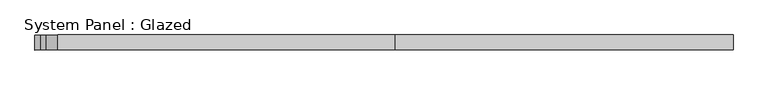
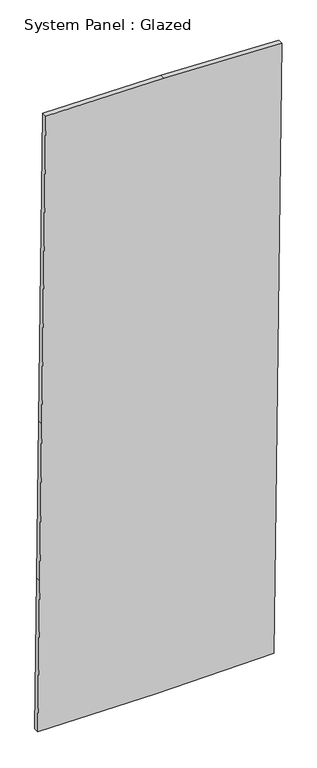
"""IFC4 building model written with IfcOpenShell, lengths in millimetres: plate geometry, System Panel : Glazed."""

from ifc_helpers import new_model, si_unit, frame, origin, place, context, project, spatial, polyline, outline, extrude, source, transform, mapped, element, save


def system_panel_glazed_b346ee0b(model_context):
    return source(origin(), model_context, "Body", "SweptSolid", [
        extrude(outline(polyline([(7.1227101, -597.257066), (0.0, -19.8425889), (7.1323704, 558.5309784), (776.4942351, 568.0214601), (1576.8300985, 577.8940222), (3146.5278267, 597.257066), (3167.9249378, 19.2354249), (3175.0476479, -558.1790523), (1591.085179, -577.7180592), (783.2301522, -587.6833742), (7.1227101, -597.257066)])), frame((0.0, -44.45, 0.0), z_axis=(0.0, 1.0, 0.0), x_axis=(0.0, 0.0, 1.0)), (0.0, 0.0, 1.0), 25.4),
    ])


if __name__ == "__main__":
    model = new_model("IFC4")
    model_context = context("Model", 3, world=origin())
    ifc_project = project(units=[si_unit("LENGTHUNIT", "METRE", prefix="MILLI")], contexts=[model_context])
    site = spatial("IfcSite", under=ifc_project)
    building = spatial("IfcBuilding", under=site)
    placement = place(None, origin())
    system_panel_glazed_shape = system_panel_glazed_b346ee0b(model_context)
    element("IfcPlate", 1, ObjectType="System Panel : Glazed", at=placement, inside=building, context=model_context, shape_type="MappedRepresentation", body=[
        mapped(system_panel_glazed_shape, transform((0.0, 0.0, 0.0), x_axis=(1.0, 0.0, 0.0), y_axis=(0.0, 1.0, 0.0), z_axis=(0.0, 0.0, 1.0))),
    ])
    save(model, "model.ifc")
